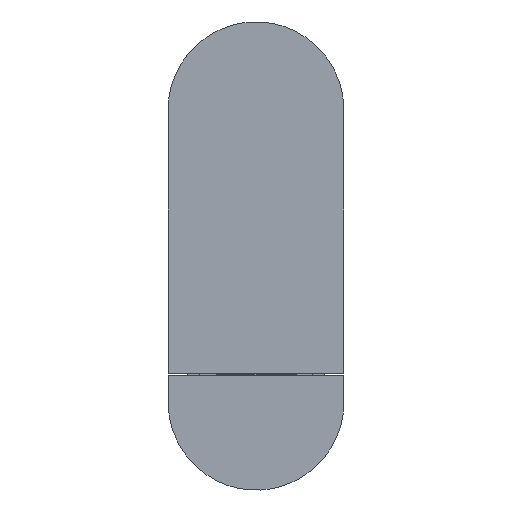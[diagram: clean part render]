
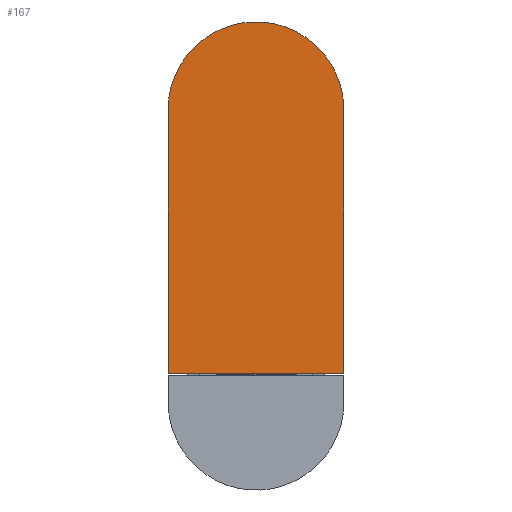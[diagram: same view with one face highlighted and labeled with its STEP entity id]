
A CAD part, front view. The second image highlights one B-rep face of the part: STEP entity #167.
In plain terms, the highlighted planar face has unit normal (0, -1, 0).
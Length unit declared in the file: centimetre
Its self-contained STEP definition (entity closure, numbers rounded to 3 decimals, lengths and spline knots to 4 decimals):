
#29=(
BOUNDED_CURVE()
B_SPLINE_CURVE(2,(#4558,#4559,#4560),.UNSPECIFIED.,.F.,.F.)
B_SPLINE_CURVE_WITH_KNOTS((3,3),(0.,450.),.UNSPECIFIED.)
CURVE()
GEOMETRIC_REPRESENTATION_ITEM()
RATIONAL_B_SPLINE_CURVE((1.,1.,1.))
REPRESENTATION_ITEM('')
);
#33=(
BOUNDED_CURVE()
B_SPLINE_CURVE(2,(#4568,#4569,#4570),.UNSPECIFIED.,.F.,.F.)
B_SPLINE_CURVE_WITH_KNOTS((3,3),(450.,1125.),.UNSPECIFIED.)
CURVE()
GEOMETRIC_REPRESENTATION_ITEM()
RATIONAL_B_SPLINE_CURVE((1.,1.,1.))
REPRESENTATION_ITEM('')
);
#36=(
BOUNDED_CURVE()
B_SPLINE_CURVE(2,(#4578,#4579,#4580,#4581,#4582),.UNSPECIFIED.,.F.,.F.)
B_SPLINE_CURVE_WITH_KNOTS((3,2,3),(1125.,1478.4292,1831.8583),
 .UNSPECIFIED.)
CURVE()
GEOMETRIC_REPRESENTATION_ITEM()
RATIONAL_B_SPLINE_CURVE((1.,0.707,1.,0.707,1.))
REPRESENTATION_ITEM('')
);
#38=(
BOUNDED_CURVE()
B_SPLINE_CURVE(2,(#4586,#4587,#4588),.UNSPECIFIED.,.F.,.F.)
B_SPLINE_CURVE_WITH_KNOTS((3,3),(1831.8583,2506.8583),
 .UNSPECIFIED.)
CURVE()
GEOMETRIC_REPRESENTATION_ITEM()
RATIONAL_B_SPLINE_CURVE((1.,1.,1.))
REPRESENTATION_ITEM('')
);
#167=ADVANCED_FACE('',(#300),#2784,.T.);
#300=FACE_OUTER_BOUND('',#433,.T.);
#433=EDGE_LOOP('',(#1046,#1047,#1048,#1049));
#1046=ORIENTED_EDGE('',*,*,#1660,.T.);
#1047=ORIENTED_EDGE('',*,*,#1664,.T.);
#1048=ORIENTED_EDGE('',*,*,#1667,.T.);
#1049=ORIENTED_EDGE('',*,*,#1669,.T.);
#1660=EDGE_CURVE('',#2641,#2640,#29,.T.);
#1664=EDGE_CURVE('',#2640,#2643,#33,.T.);
#1667=EDGE_CURVE('',#2643,#2645,#36,.T.);
#1669=EDGE_CURVE('',#2645,#2641,#38,.T.);
#2640=VERTEX_POINT('',#4547);
#2641=VERTEX_POINT('',#4548);
#2643=VERTEX_POINT('',#4550);
#2645=VERTEX_POINT('',#4552);
#2784=PLANE('',#2929);
#2929=AXIS2_PLACEMENT_3D('',#4544,#3054,$);
#3054=DIRECTION('',(0.,-1.,0.));
#4544=CARTESIAN_POINT('',(1277.5482,1086.6495,-2495.5505));
#4547=CARTESIAN_POINT('',(1783.7982,1086.6495,-2383.0505));
#4548=CARTESIAN_POINT('',(1333.7982,1086.6495,-2383.0505));
#4550=CARTESIAN_POINT('',(1783.7982,1086.6495,-1708.0505));
#4552=CARTESIAN_POINT('',(1333.7982,1086.6495,-1708.0505));
#4558=CARTESIAN_POINT('',(1333.7982,1086.6495,-2383.0505));
#4559=CARTESIAN_POINT('',(1558.7982,1086.6495,-2383.0505));
#4560=CARTESIAN_POINT('',(1783.7982,1086.6495,-2383.0505));
#4568=CARTESIAN_POINT('',(1783.7982,1086.6495,-2383.0505));
#4569=CARTESIAN_POINT('',(1783.7982,1086.6495,-2045.5505));
#4570=CARTESIAN_POINT('',(1783.7982,1086.6495,-1708.0505));
#4578=CARTESIAN_POINT('',(1783.7982,1086.6495,-1708.0505));
#4579=CARTESIAN_POINT('',(1783.7982,1086.6495,-1483.0505));
#4580=CARTESIAN_POINT('',(1558.7982,1086.6495,-1483.0505));
#4581=CARTESIAN_POINT('',(1333.7982,1086.6495,-1483.0505));
#4582=CARTESIAN_POINT('',(1333.7982,1086.6495,-1708.0505));
#4586=CARTESIAN_POINT('',(1333.7982,1086.6495,-1708.0505));
#4587=CARTESIAN_POINT('',(1333.7982,1086.6495,-2045.5505));
#4588=CARTESIAN_POINT('',(1333.7982,1086.6495,-2383.0505));
